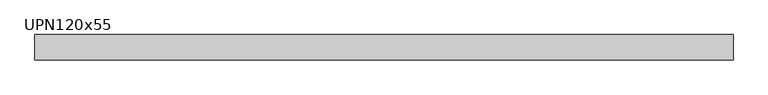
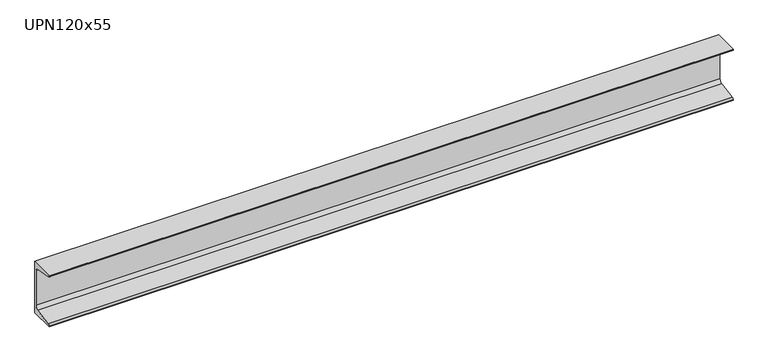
"""IFC4 building model written with IfcOpenShell, lengths in millimetres: beam geometry, M_MC Shapes : UPN120x55."""

from ifc_helpers import new_model, si_unit, point, frame, frame_2d, origin, place, context, project, spatial, polyline, circle_curve, trimmed, segment, composite_curve, outline, extrude, source, transform, mapped, element, save


def upn120x55_f8c29ef0(model_context):
    return source(origin(), model_context, "Body", "SweptSolid", [
        extrude(outline(composite_curve([segment(polyline([(10.9, 60.0), (10.9, -60.0), (-44.1, -60.0), (-44.1, -59.0253247)]), True, "CONTINUOUS"), segment(trimmed(circle_curve(frame_2d((-40.15, -59.0253247)), 3.95), [point((-44.1, -59.0253247))], [point((-40.7993773, -55.1290689))], False, "CARTESIAN"), True, "CONTINUOUS"), segment(polyline([(-40.7993773, -55.1290689), (-0.2512455, -48.3710335)]), True, "CONTINUOUS"), segment(trimmed(circle_curve(frame_2d((-1.55, -40.5785219)), 7.9), [point((-0.2512455, -48.3710335))], [point((6.35, -40.5785219))], True, "CARTESIAN"), True, "CONTINUOUS"), segment(polyline([(6.35, -40.5785219), (6.35, 40.5785219)]), True, "CONTINUOUS"), segment(trimmed(circle_curve(frame_2d((-1.55, 40.5785219)), 7.9), [point((6.35, 40.5785219))], [point((-0.2512455, 48.3710335))], True, "CARTESIAN"), True, "CONTINUOUS"), segment(polyline([(-0.2512455, 48.3710335), (-40.7993773, 55.1290689)]), True, "CONTINUOUS"), segment(trimmed(circle_curve(frame_2d((-40.15, 59.0253247)), 3.95), [point((-40.7993773, 55.1290689))], [point((-44.1, 59.0253247))], False, "CARTESIAN"), True, "CONTINUOUS"), segment(polyline([(-44.1, 59.0253247), (-44.1, 60.0), (10.9, 60.0)]), True, "CONTINUOUS")], self_intersect=False)), frame((-758.9, 0.0, 0.0), z_axis=(1.0, 0.0, 0.0), x_axis=(0.0, 1.0, 0.0)), (0.0, 0.0, 1.0), 1517.8),
    ])


if __name__ == "__main__":
    model = new_model("IFC4")
    model_context = context("Model", 3, world=origin())
    ifc_project = project(units=[si_unit("LENGTHUNIT", "METRE", prefix="MILLI")], contexts=[model_context])
    site = spatial("IfcSite", under=ifc_project)
    building = spatial("IfcBuilding", under=site)
    placement = place(None, origin())
    upn120x55_shape = upn120x55_f8c29ef0(model_context)
    element("IfcBeam", 1, ObjectType="M_MC Shapes : UPN120x55", at=placement, inside=building, context=model_context, shape_type="MappedRepresentation", body=[
        mapped(upn120x55_shape, transform((0.0, 0.0, 0.0), x_axis=(1.0, 0.0, 0.0), y_axis=(0.0, 1.0, 0.0), z_axis=(0.0, 0.0, 1.0))),
    ])
    save(model, "model.ifc")
